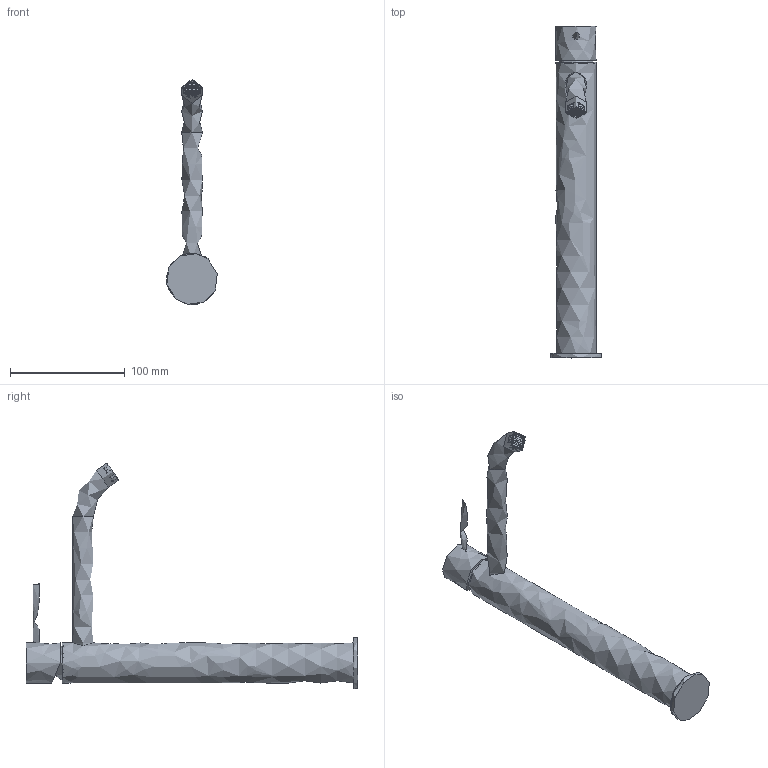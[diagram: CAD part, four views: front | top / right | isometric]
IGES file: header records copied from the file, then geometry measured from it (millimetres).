
Global section: file name: PR52AF201; native system: Autodesk Inventor 2017; preprocessor: unknown; author: PIZZERA; date: 20210408.132153; units: millimetre
Bounding box: 44.09 x 289.7 x 196.81 mm (x, y, z)
Volume: 321958.4 mm3; surface area: 46777.5 mm2
Topology: 1 solids, 1 shells, 662 faces, 1651 edges, 994 vertices
Faces by surface type: bspline 662
